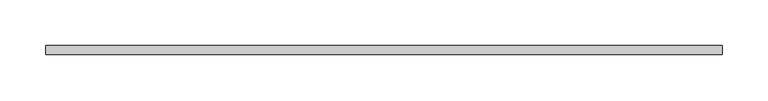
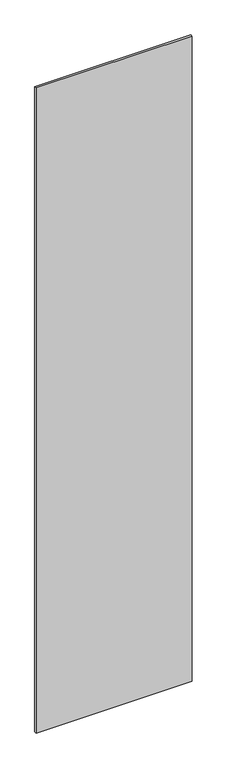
"""IFC4 building model written with IfcOpenShell, lengths in millimetres: plate geometry, 系統嵌板 : 玻璃1.0cm."""

from ifc_helpers import new_model, si_unit, origin, origin_with_axes, place, context, project, spatial, polyline, outline, extrude, source, transform, mapped, element, save


def plate_205e5e19(model_context):
    return source(origin(), model_context, "Body", "SweptSolid", [
        extrude(outline(polyline([(369.9999997, -5.0), (-369.9999997, -5.0), (-369.9999997, 5.0), (369.9999997, 5.0), (369.9999997, -5.0)])), origin_with_axes(), (0.0, 0.0, 1.0), 3230.0),
    ])


if __name__ == "__main__":
    model = new_model("IFC4")
    model_context = context("Model", 3, world=origin())
    ifc_project = project(units=[si_unit("LENGTHUNIT", "METRE", prefix="MILLI")], contexts=[model_context])
    site = spatial("IfcSite", under=ifc_project)
    building = spatial("IfcBuilding", under=site)
    placement = place(None, origin())
    plate_shape = plate_205e5e19(model_context)
    element("IfcPlate", 1, ObjectType="系統嵌板 : 玻璃1.0cm", at=placement, inside=building, context=model_context, shape_type="MappedRepresentation", body=[
        mapped(plate_shape, transform((0.0, 0.0, 0.0), x_axis=(1.0, 0.0, 0.0), y_axis=(0.0, 1.0, 0.0), z_axis=(0.0, 0.0, 1.0))),
    ])
    save(model, "model.ifc")
